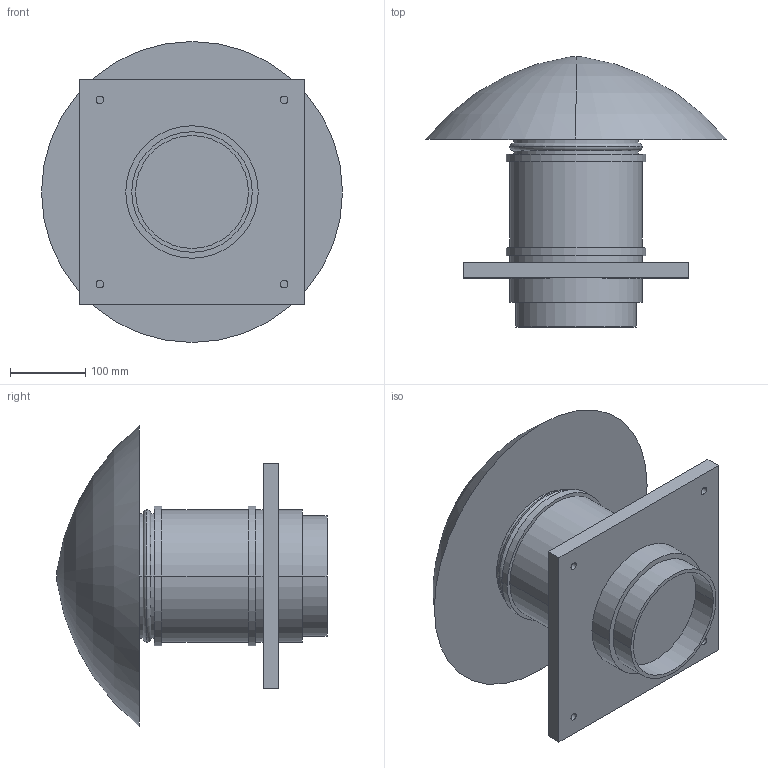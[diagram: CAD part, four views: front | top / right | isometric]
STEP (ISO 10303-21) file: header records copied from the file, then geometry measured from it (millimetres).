
FILE_DESCRIPTION(('STEP AP214'),'1');
FILE_NAME('5220025300.stp','2019-05-13T14:54:29',('TraceParts'),('TraceParts S.A.'),'Spatial InterOp 3D',' ',' ');
FILE_SCHEMA(('AUTOMOTIVE_DESIGN { 1 0 10303 214 1 1 1 1 }'));
Length unit declared in the file: millimetre
Products named in the file (1): 5220025300
Bounding box: 400 x 359 x 400 mm (x, y, z)
Volume: 13586840.5 mm3; surface area: 601698.5 mm2
Topology: 1 solids, 1 shells, 47 faces, 102 edges, 66 vertices
Faces by surface type: cylinder 26, plane 15, torus 6
Entity records: 1343 total; most frequent: DIRECTION 262, CARTESIAN_POINT 216, ORIENTED_EDGE 204, AXIS2_PLACEMENT_3D 112, EDGE_CURVE 102, VERTEX_POINT 66, EDGE_LOOP 64, CIRCLE 64
